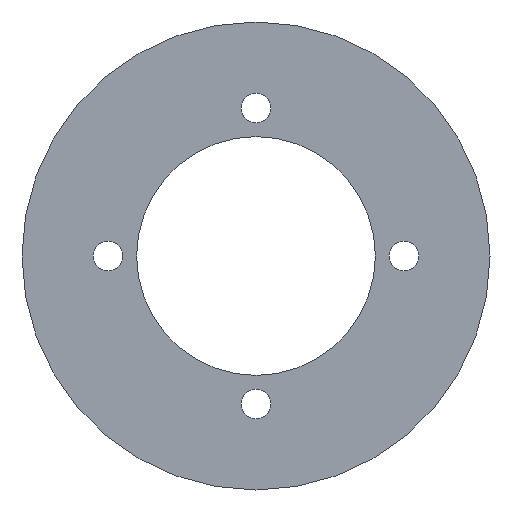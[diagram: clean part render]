
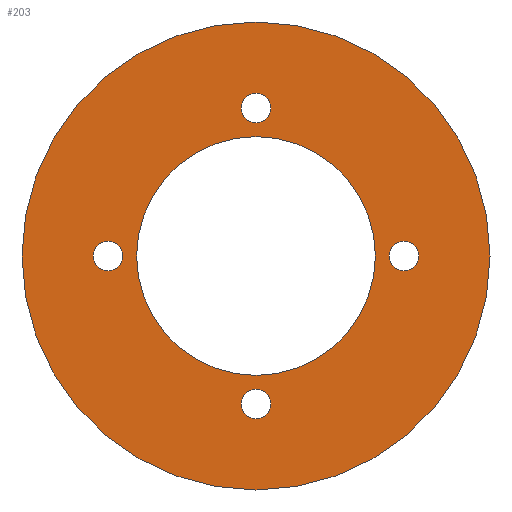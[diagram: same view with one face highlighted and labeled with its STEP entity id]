
A CAD part, left-side view. The second image highlights one B-rep face of the part: STEP entity #203.
In plain terms, the highlighted planar face has unit normal (-1, 0, 0).
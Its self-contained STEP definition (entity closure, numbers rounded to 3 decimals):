
#3 = EDGE_CURVE ( 'NONE', #81, #38, #22, .T. ) ;
#8 = CARTESIAN_POINT ( 'NONE',  ( 0., -15.5, 1.55 ) ) ;
#12 = EDGE_LOOP ( 'NONE', ( #322, #529 ) ) ;
#22 = CIRCLE ( 'NONE', #416, 1.55 ) ;
#35 = FACE_BOUND ( 'NONE', #106, .T. ) ;
#38 = VERTEX_POINT ( 'NONE', #548 ) ;
#45 = AXIS2_PLACEMENT_3D ( 'NONE', #383, #924, #1007 ) ;
#62 = CIRCLE ( 'NONE', #896, 24.5 ) ;
#67 = CARTESIAN_POINT ( 'NONE',  ( 0., 0., 13.95 ) ) ;
#71 = DIRECTION ( 'NONE',  ( 1., 0., 0. ) ) ;
#81 = VERTEX_POINT ( 'NONE', #1084 ) ;
#88 = CIRCLE ( 'NONE', #992, 1.55 ) ;
#96 = AXIS2_PLACEMENT_3D ( 'NONE', #371, #995, #547 ) ;
#106 = EDGE_LOOP ( 'NONE', ( #872, #571 ) ) ;
#107 = VERTEX_POINT ( 'NONE', #8 ) ;
#108 = CARTESIAN_POINT ( 'NONE',  ( 0., 0., -15.5 ) ) ;
#115 = CARTESIAN_POINT ( 'NONE',  ( 0., 0., 0. ) ) ;
#141 = CARTESIAN_POINT ( 'NONE',  ( 0., 0., -24.5 ) ) ;
#143 = CIRCLE ( 'NONE', #943, 1.55 ) ;
#144 = DIRECTION ( 'NONE',  ( 1., 0., 0. ) ) ;
#151 = ORIENTED_EDGE ( 'NONE', *, *, #1113, .T. ) ;
#153 = CARTESIAN_POINT ( 'NONE',  ( 0., 0., -15.5 ) ) ;
#162 = FACE_OUTER_BOUND ( 'NONE', #1069, .T. ) ;
#171 = CARTESIAN_POINT ( 'NONE',  ( 0., 0., 12.5 ) ) ;
#183 = CARTESIAN_POINT ( 'NONE',  ( 0., 0., -12.5 ) ) ;
#200 = DIRECTION ( 'NONE',  ( 1., 0., 0. ) ) ;
#203 = ADVANCED_FACE ( 'NONE', ( #35, #901, #263, #944, #628, #162 ), #733, .F. ) ;
#213 = AXIS2_PLACEMENT_3D ( 'NONE', #508, #1156, #247 ) ;
#217 = EDGE_CURVE ( 'NONE', #38, #81, #525, .T. ) ;
#218 = DIRECTION ( 'NONE',  ( 1., 0., 0. ) ) ;
#219 = CIRCLE ( 'NONE', #213, 24.5 ) ;
#234 = DIRECTION ( 'NONE',  ( 0., 0., -1. ) ) ;
#247 = DIRECTION ( 'NONE',  ( 0., 0., 1. ) ) ;
#256 = VERTEX_POINT ( 'NONE', #757 ) ;
#262 = DIRECTION ( 'NONE',  ( 0., 0., -1. ) ) ;
#263 = FACE_BOUND ( 'NONE', #376, .T. ) ;
#264 = VERTEX_POINT ( 'NONE', #141 ) ;
#301 = EDGE_CURVE ( 'NONE', #965, #1129, #88, .T. ) ;
#322 = ORIENTED_EDGE ( 'NONE', *, *, #1000, .T. ) ;
#359 = CIRCLE ( 'NONE', #558, 12.5 ) ;
#362 = EDGE_CURVE ( 'NONE', #256, #107, #814, .T. ) ;
#370 = DIRECTION ( 'NONE',  ( 1., 0., 0. ) ) ;
#371 = CARTESIAN_POINT ( 'NONE',  ( 0., 0., 0. ) ) ;
#376 = EDGE_LOOP ( 'NONE', ( #382, #993 ) ) ;
#382 = ORIENTED_EDGE ( 'NONE', *, *, #362, .T. ) ;
#383 = CARTESIAN_POINT ( 'NONE',  ( 0., 15.5, 0. ) ) ;
#390 = CIRCLE ( 'NONE', #780, 1.55 ) ;
#413 = DIRECTION ( 'NONE',  ( 0., 0., 1. ) ) ;
#416 = AXIS2_PLACEMENT_3D ( 'NONE', #715, #370, #799 ) ;
#424 = DIRECTION ( 'NONE',  ( 0., 0., -1. ) ) ;
#425 = EDGE_CURVE ( 'NONE', #264, #884, #219, .T. ) ;
#432 = ORIENTED_EDGE ( 'NONE', *, *, #729, .F. ) ;
#449 = CARTESIAN_POINT ( 'NONE',  ( 0., -15.5, 0. ) ) ;
#473 = EDGE_LOOP ( 'NONE', ( #1099, #151 ) ) ;
#487 = DIRECTION ( 'NONE',  ( 0., 0., 1. ) ) ;
#488 = VERTEX_POINT ( 'NONE', #171 ) ;
#508 = CARTESIAN_POINT ( 'NONE',  ( 0., 0., 0. ) ) ;
#514 = VERTEX_POINT ( 'NONE', #183 ) ;
#525 = CIRCLE ( 'NONE', #45, 1.55 ) ;
#529 = ORIENTED_EDGE ( 'NONE', *, *, #301, .T. ) ;
#547 = DIRECTION ( 'NONE',  ( 0., 0., 1. ) ) ;
#548 = CARTESIAN_POINT ( 'NONE',  ( 0., 15.5, -1.55 ) ) ;
#558 = AXIS2_PLACEMENT_3D ( 'NONE', #115, #740, #487 ) ;
#566 = DIRECTION ( 'NONE',  ( 0., 0., -1. ) ) ;
#571 = ORIENTED_EDGE ( 'NONE', *, *, #3, .T. ) ;
#579 = CARTESIAN_POINT ( 'NONE',  ( 0., 0., 15.5 ) ) ;
#589 = DIRECTION ( 'NONE',  ( 0., 0., -1. ) ) ;
#591 = EDGE_CURVE ( 'NONE', #107, #256, #956, .T. ) ;
#628 = FACE_BOUND ( 'NONE', #781, .T. ) ;
#646 = CARTESIAN_POINT ( 'NONE',  ( 0., 0., 24.5 ) ) ;
#703 = AXIS2_PLACEMENT_3D ( 'NONE', #1145, #144, #589 ) ;
#715 = CARTESIAN_POINT ( 'NONE',  ( 0., 15.5, 0. ) ) ;
#723 = AXIS2_PLACEMENT_3D ( 'NONE', #1020, #1108, #566 ) ;
#729 = EDGE_CURVE ( 'NONE', #514, #488, #912, .T. ) ;
#733 = PLANE ( 'NONE',  #723 ) ;
#740 = DIRECTION ( 'NONE',  ( -1., 0., 0. ) ) ;
#749 = CARTESIAN_POINT ( 'NONE',  ( 0., 0., -13.95 ) ) ;
#752 = ORIENTED_EDGE ( 'NONE', *, *, #958, .T. ) ;
#757 = CARTESIAN_POINT ( 'NONE',  ( 0., -15.5, -1.55 ) ) ;
#767 = DIRECTION ( 'NONE',  ( -1., 0., 0. ) ) ;
#774 = CARTESIAN_POINT ( 'NONE',  ( 0., 0., -17.05 ) ) ;
#778 = EDGE_CURVE ( 'NONE', #1081, #820, #390, .T. ) ;
#780 = AXIS2_PLACEMENT_3D ( 'NONE', #108, #200, #821 ) ;
#781 = EDGE_LOOP ( 'NONE', ( #782, #432 ) ) ;
#782 = ORIENTED_EDGE ( 'NONE', *, *, #854, .F. ) ;
#799 = DIRECTION ( 'NONE',  ( 0., 0., -1. ) ) ;
#814 = CIRCLE ( 'NONE', #703, 1.55 ) ;
#820 = VERTEX_POINT ( 'NONE', #749 ) ;
#821 = DIRECTION ( 'NONE',  ( 0., 0., -1. ) ) ;
#846 = CARTESIAN_POINT ( 'NONE',  ( 0., 0., 0. ) ) ;
#854 = EDGE_CURVE ( 'NONE', #488, #514, #359, .T. ) ;
#872 = ORIENTED_EDGE ( 'NONE', *, *, #217, .T. ) ;
#884 = VERTEX_POINT ( 'NONE', #646 ) ;
#896 = AXIS2_PLACEMENT_3D ( 'NONE', #846, #767, #413 ) ;
#901 = FACE_BOUND ( 'NONE', #12, .T. ) ;
#912 = CIRCLE ( 'NONE', #96, 12.5 ) ;
#924 = DIRECTION ( 'NONE',  ( 1., 0., 0. ) ) ;
#943 = AXIS2_PLACEMENT_3D ( 'NONE', #153, #71, #424 ) ;
#944 = FACE_BOUND ( 'NONE', #473, .T. ) ;
#949 = CARTESIAN_POINT ( 'NONE',  ( 0., 0., 15.5 ) ) ;
#953 = CARTESIAN_POINT ( 'NONE',  ( 0., 0., 17.05 ) ) ;
#956 = CIRCLE ( 'NONE', #960, 1.55 ) ;
#958 = EDGE_CURVE ( 'NONE', #884, #264, #62, .T. ) ;
#960 = AXIS2_PLACEMENT_3D ( 'NONE', #449, #1171, #262 ) ;
#965 = VERTEX_POINT ( 'NONE', #953 ) ;
#972 = CIRCLE ( 'NONE', #1140, 1.55 ) ;
#992 = AXIS2_PLACEMENT_3D ( 'NONE', #579, #218, #1038 ) ;
#993 = ORIENTED_EDGE ( 'NONE', *, *, #591, .T. ) ;
#995 = DIRECTION ( 'NONE',  ( -1., 0., 0. ) ) ;
#1000 = EDGE_CURVE ( 'NONE', #1129, #965, #972, .T. ) ;
#1007 = DIRECTION ( 'NONE',  ( 0., 0., -1. ) ) ;
#1020 = CARTESIAN_POINT ( 'NONE',  ( 0., 12.5, 0. ) ) ;
#1023 = ORIENTED_EDGE ( 'NONE', *, *, #425, .T. ) ;
#1038 = DIRECTION ( 'NONE',  ( 0., 0., -1. ) ) ;
#1069 = EDGE_LOOP ( 'NONE', ( #752, #1023 ) ) ;
#1081 = VERTEX_POINT ( 'NONE', #774 ) ;
#1084 = CARTESIAN_POINT ( 'NONE',  ( 0., 15.5, 1.55 ) ) ;
#1099 = ORIENTED_EDGE ( 'NONE', *, *, #778, .T. ) ;
#1108 = DIRECTION ( 'NONE',  ( 1., 0., 0. ) ) ;
#1113 = EDGE_CURVE ( 'NONE', #820, #1081, #143, .T. ) ;
#1129 = VERTEX_POINT ( 'NONE', #67 ) ;
#1137 = DIRECTION ( 'NONE',  ( 1., 0., 0. ) ) ;
#1140 = AXIS2_PLACEMENT_3D ( 'NONE', #949, #1137, #234 ) ;
#1145 = CARTESIAN_POINT ( 'NONE',  ( 0., -15.5, 0. ) ) ;
#1156 = DIRECTION ( 'NONE',  ( -1., 0., 0. ) ) ;
#1171 = DIRECTION ( 'NONE',  ( 1., 0., 0. ) ) ;
